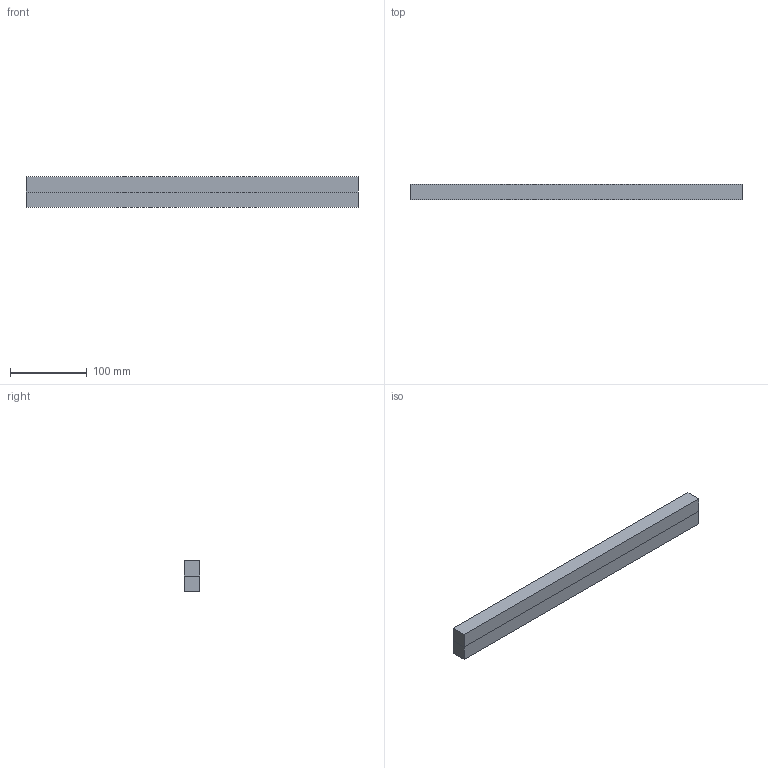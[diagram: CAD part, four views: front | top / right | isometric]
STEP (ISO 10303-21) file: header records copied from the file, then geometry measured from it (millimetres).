
FILE_DESCRIPTION(('Open CASCADE Model'),'2;1');
FILE_NAME('Open CASCADE Shape Model','2025-02-21T15:43:40',('Author'),( 'Open CASCADE'),'Open CASCADE STEP processor 7.8','Open CASCADE 7.8' ,'Unknown');
FILE_SCHEMA(('AUTOMOTIVE_DESIGN { 1 0 10303 214 1 1 1 1 }'));
Length unit declared in the file: millimetre
Products named in the file (2): Compound1; Solid1
Assembly tree (2 placements, depth 2):
  Compound1
    Solid1  x2
Bounding box: 434 x 20 x 40 mm (x, y, z)
Volume: 347200 mm3; surface area: 71040 mm2
Topology: 2 solids, 2 shells, 12 faces, 24 edges, 16 vertices
Faces by surface type: plane 12
Entity records: 192 total; most frequent: DIRECTION 30, CARTESIAN_POINT 29, ORIENTED_EDGE 24, EDGE_CURVE 12, LINE 12, VECTOR 12, AXIS2_PLACEMENT_3D 9, VERTEX_POINT 8
